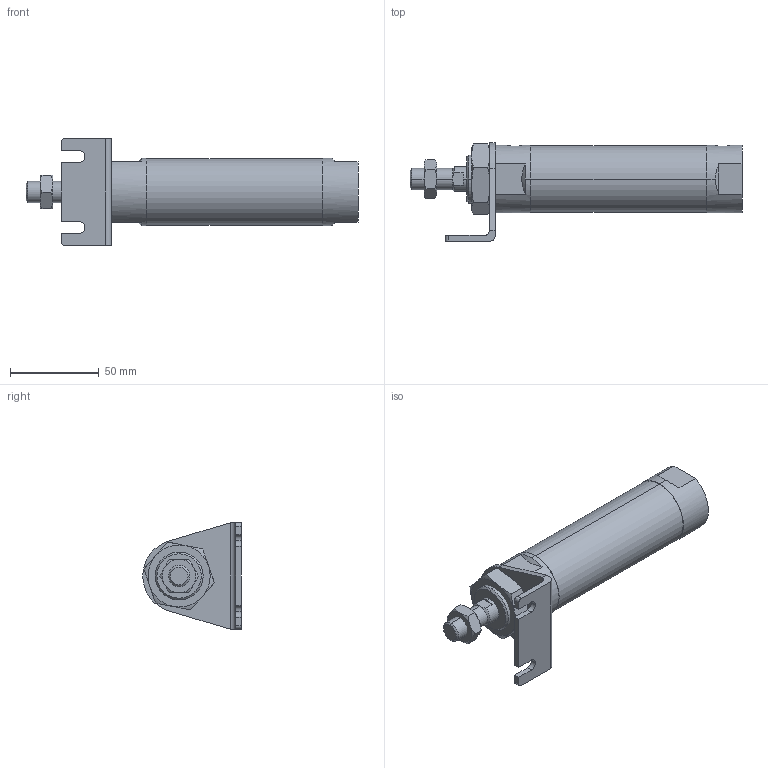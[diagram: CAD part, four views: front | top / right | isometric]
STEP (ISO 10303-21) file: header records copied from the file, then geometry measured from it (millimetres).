
FILE_DESCRIPTION (( 'STEP AP203' ), '1' );
FILE_NAME ('JGND2-32-50-L.STEP', '2016-08-04T02:48:24', ( '' ), ( '' ), 'SwSTEP 2.0', 'SolidWorks 2014', '' );
FILE_SCHEMA (( 'CONFIG_CONTROL_DESIGN' ));
Length unit declared in the file: millimetre
Products named in the file (5): J#2-32-L; JGND2-32-50-L; J#2-32-50(P)
Assembly tree (4 placements, depth 2):
  JGND2-32-50-L
    J#2-32-50(P)
    (unnamed)
    (unnamed)
    J#2-32-L
Bounding box: 187 x 55.5 x 60 mm (x, y, z)
Volume: 181761.2 mm3; surface area: 34216.3 mm2
Topology: 4 solids, 4 shells, 116 faces, 273 edges, 167 vertices
Faces by surface type: plane 47, cylinder 32, torus 24, cone 13
Entity records: 4285 total; most frequent: CARTESIAN_POINT 1166, DIRECTION 548, ORIENTED_EDGE 538, EDGE_CURVE 269, AXIS2_PLACEMENT_3D 219, VERTEX_POINT 167, EDGE_LOOP 128, ADVANCED_FACE 116
